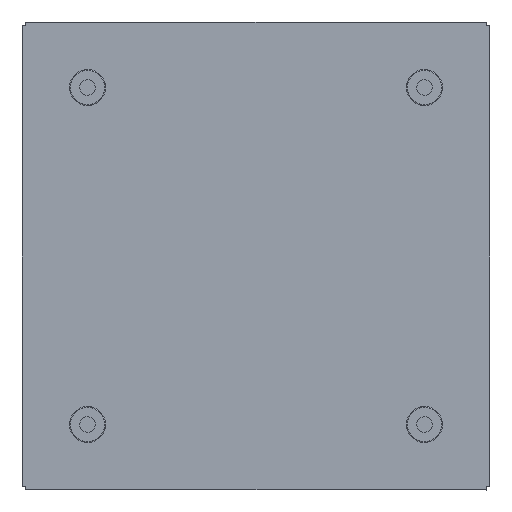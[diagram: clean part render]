
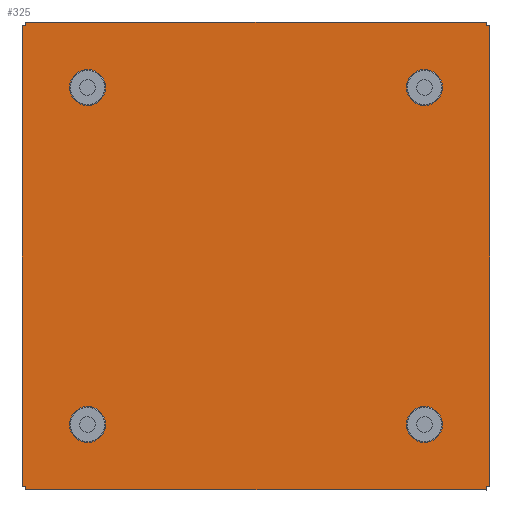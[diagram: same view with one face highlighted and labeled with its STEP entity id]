
A CAD part, front view. The second image highlights one B-rep face of the part: STEP entity #325.
In plain terms, the highlighted planar face has unit normal (0, -1, 0).
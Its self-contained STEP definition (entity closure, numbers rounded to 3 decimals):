
#325 = ADVANCED_FACE('',(#326,#424,#444,#455,#475),#486,.T.);
#326 = FACE_BOUND('',#327,.T.);
#327 = EDGE_LOOP('',(#328,#338,#346,#354,#362,#370,#378,#386,#394,#402,
    #410,#418));
#328 = ORIENTED_EDGE('',*,*,#329,.F.);
#329 = EDGE_CURVE('',#330,#332,#334,.T.);
#330 = VERTEX_POINT('',#331);
#331 = CARTESIAN_POINT('',(-75.,-1.2,73.729));
#332 = VERTEX_POINT('',#333);
#333 = CARTESIAN_POINT('',(-73.729,-1.2,73.729));
#334 = LINE('',#335,#336);
#335 = CARTESIAN_POINT('',(0.,-1.2,73.729));
#336 = VECTOR('',#337,1.);
#337 = DIRECTION('',(1.,-0.,0.));
#338 = ORIENTED_EDGE('',*,*,#339,.T.);
#339 = EDGE_CURVE('',#330,#340,#342,.T.);
#340 = VERTEX_POINT('',#341);
#341 = CARTESIAN_POINT('',(-75.,-1.2,-73.729));
#342 = LINE('',#343,#344);
#343 = CARTESIAN_POINT('',(-75.,-1.2,825.));
#344 = VECTOR('',#345,1.);
#345 = DIRECTION('',(0.,0.,-1.));
#346 = ORIENTED_EDGE('',*,*,#347,.T.);
#347 = EDGE_CURVE('',#340,#348,#350,.T.);
#348 = VERTEX_POINT('',#349);
#349 = CARTESIAN_POINT('',(-73.729,-1.2,-73.729));
#350 = LINE('',#351,#352);
#351 = CARTESIAN_POINT('',(-75.,-1.2,-73.729));
#352 = VECTOR('',#353,1.);
#353 = DIRECTION('',(1.,0.,0.));
#354 = ORIENTED_EDGE('',*,*,#355,.F.);
#355 = EDGE_CURVE('',#356,#348,#358,.T.);
#356 = VERTEX_POINT('',#357);
#357 = CARTESIAN_POINT('',(-73.729,-1.2,-75.));
#358 = LINE('',#359,#360);
#359 = CARTESIAN_POINT('',(-73.729,-1.2,0.));
#360 = VECTOR('',#361,1.);
#361 = DIRECTION('',(0.,-0.,1.));
#362 = ORIENTED_EDGE('',*,*,#363,.T.);
#363 = EDGE_CURVE('',#356,#364,#366,.T.);
#364 = VERTEX_POINT('',#365);
#365 = CARTESIAN_POINT('',(73.729,-1.2,-75.));
#366 = LINE('',#367,#368);
#367 = CARTESIAN_POINT('',(-825.,-1.2,-75.));
#368 = VECTOR('',#369,1.);
#369 = DIRECTION('',(1.,0.,0.));
#370 = ORIENTED_EDGE('',*,*,#371,.T.);
#371 = EDGE_CURVE('',#364,#372,#374,.T.);
#372 = VERTEX_POINT('',#373);
#373 = CARTESIAN_POINT('',(73.729,-1.2,-73.729));
#374 = LINE('',#375,#376);
#375 = CARTESIAN_POINT('',(73.729,-1.2,-75.));
#376 = VECTOR('',#377,1.);
#377 = DIRECTION('',(0.,0.,1.));
#378 = ORIENTED_EDGE('',*,*,#379,.F.);
#379 = EDGE_CURVE('',#380,#372,#382,.T.);
#380 = VERTEX_POINT('',#381);
#381 = CARTESIAN_POINT('',(75.,-1.2,-73.729));
#382 = LINE('',#383,#384);
#383 = CARTESIAN_POINT('',(0.,-1.2,-73.729));
#384 = VECTOR('',#385,1.);
#385 = DIRECTION('',(-1.,-0.,-0.));
#386 = ORIENTED_EDGE('',*,*,#387,.T.);
#387 = EDGE_CURVE('',#380,#388,#390,.T.);
#388 = VERTEX_POINT('',#389);
#389 = CARTESIAN_POINT('',(75.,-1.2,73.729));
#390 = LINE('',#391,#392);
#391 = CARTESIAN_POINT('',(75.,-1.2,-825.));
#392 = VECTOR('',#393,1.);
#393 = DIRECTION('',(0.,0.,1.));
#394 = ORIENTED_EDGE('',*,*,#395,.T.);
#395 = EDGE_CURVE('',#388,#396,#398,.T.);
#396 = VERTEX_POINT('',#397);
#397 = CARTESIAN_POINT('',(73.729,-1.2,73.729));
#398 = LINE('',#399,#400);
#399 = CARTESIAN_POINT('',(75.,-1.2,73.729));
#400 = VECTOR('',#401,1.);
#401 = DIRECTION('',(-1.,0.,0.));
#402 = ORIENTED_EDGE('',*,*,#403,.F.);
#403 = EDGE_CURVE('',#404,#396,#406,.T.);
#404 = VERTEX_POINT('',#405);
#405 = CARTESIAN_POINT('',(73.729,-1.2,75.));
#406 = LINE('',#407,#408);
#407 = CARTESIAN_POINT('',(73.729,-1.2,0.));
#408 = VECTOR('',#409,1.);
#409 = DIRECTION('',(0.,-0.,-1.));
#410 = ORIENTED_EDGE('',*,*,#411,.T.);
#411 = EDGE_CURVE('',#404,#412,#414,.T.);
#412 = VERTEX_POINT('',#413);
#413 = CARTESIAN_POINT('',(-73.729,-1.2,75.));
#414 = LINE('',#415,#416);
#415 = CARTESIAN_POINT('',(825.,-1.2,75.));
#416 = VECTOR('',#417,1.);
#417 = DIRECTION('',(-1.,0.,0.));
#418 = ORIENTED_EDGE('',*,*,#419,.T.);
#419 = EDGE_CURVE('',#412,#332,#420,.T.);
#420 = LINE('',#421,#422);
#421 = CARTESIAN_POINT('',(-73.729,-1.2,75.));
#422 = VECTOR('',#423,1.);
#423 = DIRECTION('',(0.,0.,-1.));
#424 = FACE_BOUND('',#425,.T.);
#425 = EDGE_LOOP('',(#426,#437));
#426 = ORIENTED_EDGE('',*,*,#427,.F.);
#427 = EDGE_CURVE('',#428,#430,#432,.T.);
#428 = VERTEX_POINT('',#429);
#429 = CARTESIAN_POINT('',(-54.,-1.2,-50.));
#430 = VERTEX_POINT('',#431);
#431 = CARTESIAN_POINT('',(-54.,-1.2,-58.));
#432 = CIRCLE('',#433,4.);
#433 = AXIS2_PLACEMENT_3D('',#434,#435,#436);
#434 = CARTESIAN_POINT('',(-54.,-1.2,-54.));
#435 = DIRECTION('',(0.,-1.,0.));
#436 = DIRECTION('',(0.,0.,1.));
#437 = ORIENTED_EDGE('',*,*,#438,.F.);
#438 = EDGE_CURVE('',#430,#428,#439,.T.);
#439 = CIRCLE('',#440,4.);
#440 = AXIS2_PLACEMENT_3D('',#441,#442,#443);
#441 = CARTESIAN_POINT('',(-54.,-1.2,-54.));
#442 = DIRECTION('',(0.,-1.,0.));
#443 = DIRECTION('',(0.,0.,1.));
#444 = FACE_BOUND('',#445,.T.);
#445 = EDGE_LOOP('',(#446));
#446 = ORIENTED_EDGE('',*,*,#447,.F.);
#447 = EDGE_CURVE('',#448,#448,#450,.T.);
#448 = VERTEX_POINT('',#449);
#449 = CARTESIAN_POINT('',(54.,-1.2,-58.));
#450 = CIRCLE('',#451,4.);
#451 = AXIS2_PLACEMENT_3D('',#452,#453,#454);
#452 = CARTESIAN_POINT('',(54.,-1.2,-54.));
#453 = DIRECTION('',(0.,-1.,0.));
#454 = DIRECTION('',(0.,0.,-1.));
#455 = FACE_BOUND('',#456,.T.);
#456 = EDGE_LOOP('',(#457,#468));
#457 = ORIENTED_EDGE('',*,*,#458,.F.);
#458 = EDGE_CURVE('',#459,#461,#463,.T.);
#459 = VERTEX_POINT('',#460);
#460 = CARTESIAN_POINT('',(54.,-1.2,58.));
#461 = VERTEX_POINT('',#462);
#462 = CARTESIAN_POINT('',(54.,-1.2,50.));
#463 = CIRCLE('',#464,4.);
#464 = AXIS2_PLACEMENT_3D('',#465,#466,#467);
#465 = CARTESIAN_POINT('',(54.,-1.2,54.));
#466 = DIRECTION('',(0.,-1.,0.));
#467 = DIRECTION('',(0.,0.,1.));
#468 = ORIENTED_EDGE('',*,*,#469,.F.);
#469 = EDGE_CURVE('',#461,#459,#470,.T.);
#470 = CIRCLE('',#471,4.);
#471 = AXIS2_PLACEMENT_3D('',#472,#473,#474);
#472 = CARTESIAN_POINT('',(54.,-1.2,54.));
#473 = DIRECTION('',(0.,-1.,0.));
#474 = DIRECTION('',(0.,0.,1.));
#475 = FACE_BOUND('',#476,.T.);
#476 = EDGE_LOOP('',(#477));
#477 = ORIENTED_EDGE('',*,*,#478,.F.);
#478 = EDGE_CURVE('',#479,#479,#481,.T.);
#479 = VERTEX_POINT('',#480);
#480 = CARTESIAN_POINT('',(-54.,-1.2,50.));
#481 = CIRCLE('',#482,4.);
#482 = AXIS2_PLACEMENT_3D('',#483,#484,#485);
#483 = CARTESIAN_POINT('',(-54.,-1.2,54.));
#484 = DIRECTION('',(0.,-1.,0.));
#485 = DIRECTION('',(0.,0.,-1.));
#486 = PLANE('',#487);
#487 = AXIS2_PLACEMENT_3D('',#488,#489,#490);
#488 = CARTESIAN_POINT('',(0.,-1.2,0.));
#489 = DIRECTION('',(0.,-1.,0.));
#490 = DIRECTION('',(0.,-0.,-1.));
